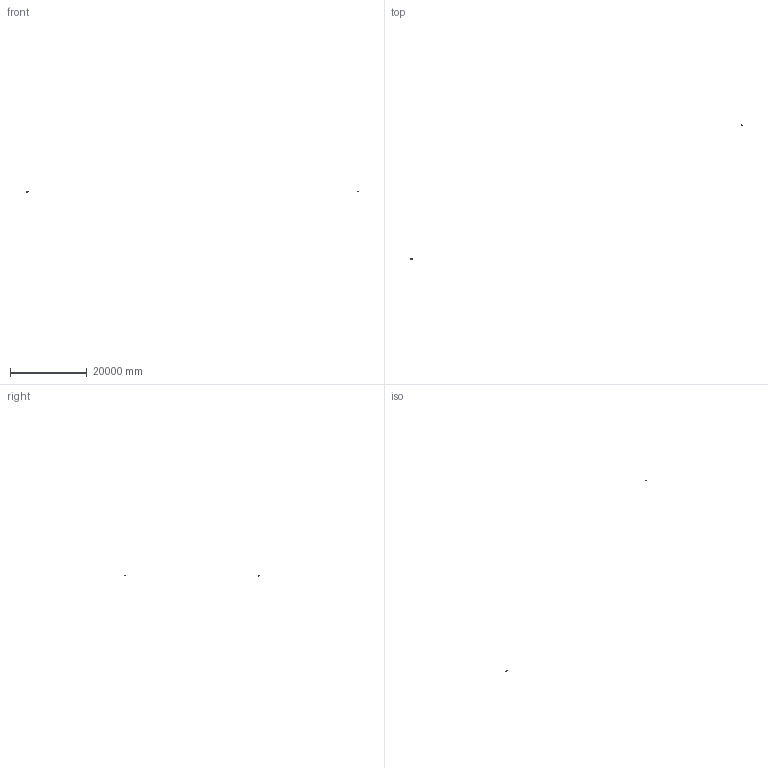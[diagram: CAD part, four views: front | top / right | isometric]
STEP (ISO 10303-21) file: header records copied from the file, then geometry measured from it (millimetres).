
FILE_DESCRIPTION(('Creo Elements/Direct Modeling STEP Export'),'2;1');
FILE_NAME('3D-Model_MLC SC W2_560_72_yzz HE G3__(WU-M-739).stp','2025-05-07T13:54:26',(''),(''),'PTC Creo Elements/Direct Modeling STEP processor for AP214 (Solid Model)','PTC Creo Elements/Direct Modeling 19.0E 27-Jun-2016 (C) Parametric Technology GmbH','');
FILE_SCHEMA(('AUTOMOTIVE_DESIGN { 1 0 10303 214 1 1 1 1 }'));
Length unit declared in the file: millimetre
Products named in the file (208): p1; PLATE.58; PLATE.59; PLATE.61; PLATE.63; PLATE.64; PLATE.56; PLATE.60; PLATE.62; PLATE.55; PLATE.54; PLATE.57; PLATE.124; PLATE.121; PLATE.127; PLATE.123; PLATE.126; PLATE.125; PLATE.122; PLATE.88; PLATE.89; PLATE.92; PLATE.95; PLATE.87; PLATE.91; PLATE.96; PLATE.97; PLATE.93; PLATE.94; PLATE.90; PLATE.40; PLATE.41; PLATE.16; PLATE.8; PLATE.34; PLATE.2; PLATE.6; PLATE.13; PLATE.1; PLATE.7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
Assembly tree (202 placements, depth 2):
  p1
  PRINT
    PLATE.84
    PLATE.80
    PLATE.83
    PLATE.76
    PLATE.85
    PLATE.78
    PLATE.82
    PLATE.86
    PLATE.79
    PLATE.77
    PLATE.81
    PLATE.110
    PLATE.117
    PLATE.115
    PLATE.119
    PLATE.118
    PLATE.109
    PLATE.112
    PLATE.100
    PLATE.114
    PLATE.106
    PLATE.105
    PLATE.108
    PLATE.107
    PLATE.98
    PLATE.99
    PLATE.111
    PLATE.113
    PLATE.101
    PLATE.120
    PLATE.116
    PLATE.104
    PLATE.103
    PLATE.102
    PLATE.71
    PLATE.66
    PLATE.65
    PLATE.70
    PLATE.75
    PLATE.74
    PLATE.69
    PLATE.73
    PLATE.68
    PLATE.67
    PLATE.72
    PLATE.51
    PLATE.48
    PLATE.47
    PLATE.52
    PLATE.49
    PLATE.50
    PLATE.46
    PLATE.53
    PLATE.45
    PLATE.44
    PLATE.43
    PLATE.22
    PLATE.24
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Bounding box: 86437.48 x 34887.99 x 7.4 mm (x, y, z)
Volume: 18143.2 mm3; surface area: 28593.2 mm2
Topology: 203 solids, 203 shells, 9680 faces, 26428 edges, 17350 vertices
Faces by surface type: plane 7655, cylinder 2013, cone 8, bspline 4
Entity records: 140117 total; most frequent: CARTESIAN_POINT 19767, ORIENTED_EDGE 18634, DIRECTION 18224, EDGE_CURVE 9317, VECTOR 7508, LINE 7508, VERTEX_POINT 6203, AXIS2_PLACEMENT_3D 5358
